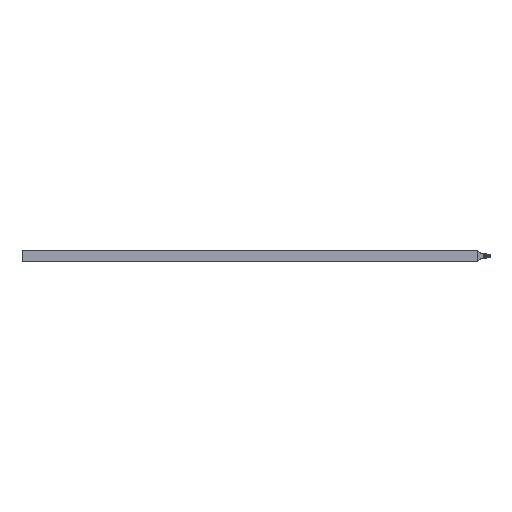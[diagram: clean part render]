
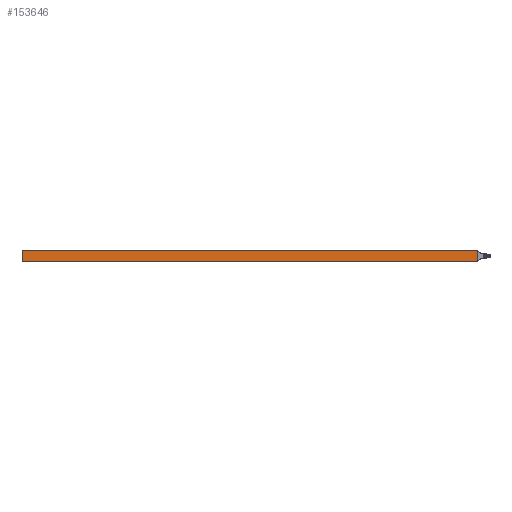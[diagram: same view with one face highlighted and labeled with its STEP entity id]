
A CAD part, front view. The second image highlights one B-rep face of the part: STEP entity #153646.
In plain terms, the highlighted planar face has unit normal (0, -1, 0).
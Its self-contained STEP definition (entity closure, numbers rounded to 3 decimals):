
#1093 = CARTESIAN_POINT ( 'NONE',  ( -304.8, 0., -6.247 ) ) ;
#1235 = CARTESIAN_POINT ( 'NONE',  ( 304.8, 0., 8.993 ) ) ;
#1441 = CARTESIAN_POINT ( 'NONE',  ( -304.8, 0., 8.993 ) ) ;
#26045 = VERTEX_POINT ( 'NONE', #87149 ) ;
#71997 = EDGE_CURVE ( 'NONE', #172176, #172495, #132414, .T. ) ;
#72005 = EDGE_CURVE ( 'NONE', #172495, #172306, #132422, .T. ) ;
#72011 = EDGE_CURVE ( 'NONE', #172306, #26045, #132428, .T. ) ;
#72017 = EDGE_CURVE ( 'NONE', #26045, #172176, #132434, .T. ) ;
#87149 = CARTESIAN_POINT ( 'NONE',  ( 304.8, 0., -6.247 ) ) ;
#122169 = AXIS2_PLACEMENT_3D ( 'NONE', #146932, #146934, #146936 ) ;
#123737 = FACE_OUTER_BOUND ( 'NONE', #140508, .T. ) ;
#132414 = LINE ( 'NONE', #148013, #132415 ) ;
#132415 = VECTOR ( 'NONE', #148015, 1000. ) ;
#132422 = LINE ( 'NONE', #148030, #132423 ) ;
#132423 = VECTOR ( 'NONE', #148031, 1000. ) ;
#132428 = LINE ( 'NONE', #148042, #132429 ) ;
#132429 = VECTOR ( 'NONE', #148044, 1000. ) ;
#132434 = LINE ( 'NONE', #148054, #132435 ) ;
#132435 = VECTOR ( 'NONE', #148056, 1000. ) ;
#140508 = EDGE_LOOP ( 'NONE', ( #143020, #143021, #143022, #143023 ) ) ;
#143020 = ORIENTED_EDGE ( 'NONE', *, *, #71997, .F. ) ;
#143021 = ORIENTED_EDGE ( 'NONE', *, *, #72017, .F. ) ;
#143022 = ORIENTED_EDGE ( 'NONE', *, *, #72011, .F. ) ;
#143023 = ORIENTED_EDGE ( 'NONE', *, *, #72005, .F. ) ;
#146931 = PLANE ( 'NONE',  #122169 ) ;
#146932 = CARTESIAN_POINT ( 'NONE',  ( -304.8, 0., -6.247 ) ) ;
#146934 = DIRECTION ( 'NONE',  ( 0., -1., 0. ) ) ;
#146936 = DIRECTION ( 'NONE',  ( 0., 0., -1. ) ) ;
#148013 = CARTESIAN_POINT ( 'NONE',  ( -304.8, 0., 8.993 ) ) ;
#148015 = DIRECTION ( 'NONE',  ( 0., 0., 1. ) ) ;
#148030 = CARTESIAN_POINT ( 'NONE',  ( -304.8, 0., 8.993 ) ) ;
#148031 = DIRECTION ( 'NONE',  ( 1., 0., 0. ) ) ;
#148042 = CARTESIAN_POINT ( 'NONE',  ( 304.8, 0., -6.247 ) ) ;
#148044 = DIRECTION ( 'NONE',  ( 0., 0., -1. ) ) ;
#148054 = CARTESIAN_POINT ( 'NONE',  ( -304.8, 0., -6.247 ) ) ;
#148056 = DIRECTION ( 'NONE',  ( -1., 0., 0. ) ) ;
#153646 = ADVANCED_FACE ( 'NONE', ( #123737 ), #146931, .T. ) ;
#172176 = VERTEX_POINT ( 'NONE', #1093 ) ;
#172306 = VERTEX_POINT ( 'NONE', #1235 ) ;
#172495 = VERTEX_POINT ( 'NONE', #1441 ) ;
